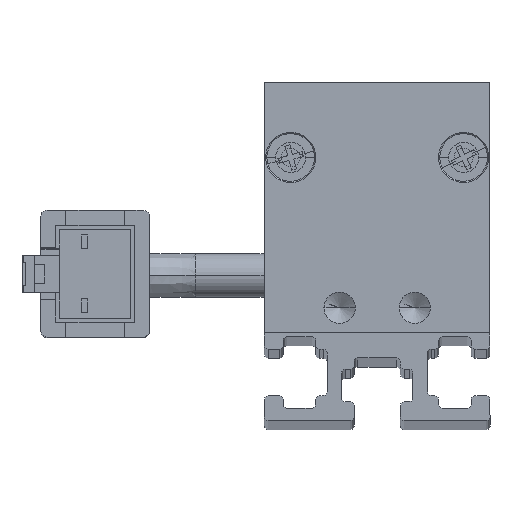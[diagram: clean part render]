
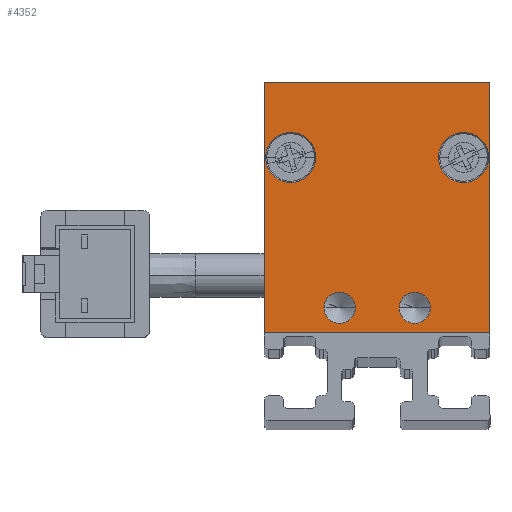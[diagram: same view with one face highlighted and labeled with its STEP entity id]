
A CAD part, top view. The second image highlights one B-rep face of the part: STEP entity #4352.
In plain terms, the highlighted planar face has unit normal (0, 0, 1) as drawn and (0, 0, -1) by its records, which use the part's own axes.
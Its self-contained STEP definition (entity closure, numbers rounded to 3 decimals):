
#163 = EDGE_LOOP ( 'NONE', ( #4491, #4620 ) ) ;
#186 = CARTESIAN_POINT ( 'NONE',  ( -6.9, 14., -2.5 ) ) ;
#302 = ORIENTED_EDGE ( 'NONE', *, *, #7765, .F. ) ;
#450 = EDGE_CURVE ( 'NONE', #8922, #4882, #8882, .T. ) ;
#514 = DIRECTION ( 'NONE',  ( 0., 0., 1. ) ) ;
#521 = EDGE_CURVE ( 'NONE', #8181, #11687, #7374, .T. ) ;
#536 = EDGE_CURVE ( 'NONE', #9345, #9925, #6299, .T. ) ;
#737 = DIRECTION ( 'NONE',  ( 0., -1., 0. ) ) ;
#795 = AXIS2_PLACEMENT_3D ( 'NONE', #7329, #3524, #11199 ) ;
#827 = VERTEX_POINT ( 'NONE', #12157 ) ;
#885 = VERTEX_POINT ( 'NONE', #8368 ) ;
#1005 = ORIENTED_EDGE ( 'NONE', *, *, #521, .F. ) ;
#1153 = DIRECTION ( 'NONE',  ( 0., 0., -1. ) ) ;
#1154 = AXIS2_PLACEMENT_3D ( 'NONE', #4956, #9013, #7934 ) ;
#1447 = CARTESIAN_POINT ( 'NONE',  ( -6.9, 14., -2.5 ) ) ;
#1461 = AXIS2_PLACEMENT_3D ( 'NONE', #4500, #6398, #3549 ) ;
#1592 = ORIENTED_EDGE ( 'NONE', *, *, #5945, .F. ) ;
#1998 = VERTEX_POINT ( 'NONE', #12223 ) ;
#2282 = EDGE_LOOP ( 'NONE', ( #6210, #9033 ) ) ;
#2319 = DIRECTION ( 'NONE',  ( 0., 0., -1. ) ) ;
#2323 = AXIS2_PLACEMENT_3D ( 'NONE', #11893, #10190, #5061 ) ;
#2343 = CIRCLE ( 'NONE', #5386, 1.25 ) ;
#2414 = DIRECTION ( 'NONE',  ( -1., 0., 0. ) ) ;
#2503 = VECTOR ( 'NONE', #4930, 1000. ) ;
#2558 = DIRECTION ( 'NONE',  ( 0., 1., 0. ) ) ;
#2594 = ORIENTED_EDGE ( 'NONE', *, *, #7793, .F. ) ;
#2686 = EDGE_CURVE ( 'NONE', #6422, #1998, #3645, .T. ) ;
#2713 = CARTESIAN_POINT ( 'NONE',  ( -9., 0., -2.5 ) ) ;
#3110 = CARTESIAN_POINT ( 'NONE',  ( 3., 2., -2.5 ) ) ;
#3179 = CARTESIAN_POINT ( 'NONE',  ( -3., 2., -2.5 ) ) ;
#3313 = CARTESIAN_POINT ( 'NONE',  ( -8.9, 14., -2.5 ) ) ;
#3524 = DIRECTION ( 'NONE',  ( 0., 0., -1. ) ) ;
#3549 = DIRECTION ( 'NONE',  ( -1., 0., 0. ) ) ;
#3645 = CIRCLE ( 'NONE', #8104, 2. ) ;
#3804 = CARTESIAN_POINT ( 'NONE',  ( 1.75, 2., -2.5 ) ) ;
#3992 = EDGE_CURVE ( 'NONE', #9088, #885, #7928, .T. ) ;
#4111 = CARTESIAN_POINT ( 'NONE',  ( -9., 20., -2.5 ) ) ;
#4124 = CIRCLE ( 'NONE', #7356, 1.25 ) ;
#4185 = FACE_OUTER_BOUND ( 'NONE', #6298, .T. ) ;
#4352 = ADVANCED_FACE ( 'NONE', ( #8931, #7027, #6078, #8994, #4185 ), #8042, .F. ) ;
#4459 = CARTESIAN_POINT ( 'NONE',  ( -9., 0., -2.5 ) ) ;
#4491 = ORIENTED_EDGE ( 'NONE', *, *, #6964, .F. ) ;
#4500 = CARTESIAN_POINT ( 'NONE',  ( 6.9, 14., -2.5 ) ) ;
#4563 = VECTOR ( 'NONE', #10445, 1000. ) ;
#4620 = ORIENTED_EDGE ( 'NONE', *, *, #3992, .F. ) ;
#4685 = LINE ( 'NONE', #4111, #2503 ) ;
#4740 = CARTESIAN_POINT ( 'NONE',  ( 9., 20., -2.5 ) ) ;
#4741 = ORIENTED_EDGE ( 'NONE', *, *, #536, .F. ) ;
#4882 = VERTEX_POINT ( 'NONE', #9338 ) ;
#4930 = DIRECTION ( 'NONE',  ( -1., 0., 0. ) ) ;
#4956 = CARTESIAN_POINT ( 'NONE',  ( 3., 2., -2.5 ) ) ;
#5020 = DIRECTION ( 'NONE',  ( -1., 0., 0. ) ) ;
#5061 = DIRECTION ( 'NONE',  ( -1., 0., 0. ) ) ;
#5327 = CARTESIAN_POINT ( 'NONE',  ( 9., 0., -2.5 ) ) ;
#5386 = AXIS2_PLACEMENT_3D ( 'NONE', #3110, #1153, #5020 ) ;
#5450 = VECTOR ( 'NONE', #2558, 1000. ) ;
#5612 = CIRCLE ( 'NONE', #5809, 2. ) ;
#5750 = VERTEX_POINT ( 'NONE', #3804 ) ;
#5809 = AXIS2_PLACEMENT_3D ( 'NONE', #1447, #11085, #8285 ) ;
#5945 = EDGE_CURVE ( 'NONE', #4882, #8922, #4124, .T. ) ;
#6051 = ORIENTED_EDGE ( 'NONE', *, *, #450, .F. ) ;
#6078 = FACE_BOUND ( 'NONE', #11226, .T. ) ;
#6210 = ORIENTED_EDGE ( 'NONE', *, *, #2686, .F. ) ;
#6298 = EDGE_LOOP ( 'NONE', ( #1005, #2594, #4741, #302 ) ) ;
#6299 = LINE ( 'NONE', #10179, #5450 ) ;
#6398 = DIRECTION ( 'NONE',  ( 0., 0., -1. ) ) ;
#6422 = VERTEX_POINT ( 'NONE', #3313 ) ;
#6610 = CIRCLE ( 'NONE', #1154, 1.25 ) ;
#6842 = VECTOR ( 'NONE', #737, 1000. ) ;
#6964 = EDGE_CURVE ( 'NONE', #885, #9088, #8589, .T. ) ;
#7027 = FACE_BOUND ( 'NONE', #2282, .T. ) ;
#7043 = DIRECTION ( 'NONE',  ( 0., 0., -1. ) ) ;
#7276 = CARTESIAN_POINT ( 'NONE',  ( 0., 0., -2.5 ) ) ;
#7329 = CARTESIAN_POINT ( 'NONE',  ( -3., 2., -2.5 ) ) ;
#7356 = AXIS2_PLACEMENT_3D ( 'NONE', #3179, #7043, #2414 ) ;
#7374 = LINE ( 'NONE', #8383, #6842 ) ;
#7707 = CARTESIAN_POINT ( 'NONE',  ( -9., 20., -2.5 ) ) ;
#7765 = EDGE_CURVE ( 'NONE', #11687, #9345, #11394, .T. ) ;
#7793 = EDGE_CURVE ( 'NONE', #9925, #8181, #4685, .T. ) ;
#7875 = EDGE_LOOP ( 'NONE', ( #6051, #1592 ) ) ;
#7895 = DIRECTION ( 'NONE',  ( -1., 0., 0. ) ) ;
#7928 = CIRCLE ( 'NONE', #1461, 2. ) ;
#7934 = DIRECTION ( 'NONE',  ( -1., 0., 0. ) ) ;
#8042 = PLANE ( 'NONE',  #8943 ) ;
#8104 = AXIS2_PLACEMENT_3D ( 'NONE', #186, #2319, #7895 ) ;
#8181 = VERTEX_POINT ( 'NONE', #7707 ) ;
#8285 = DIRECTION ( 'NONE',  ( -1., 0., 0. ) ) ;
#8368 = CARTESIAN_POINT ( 'NONE',  ( 4.9, 14., -2.5 ) ) ;
#8383 = CARTESIAN_POINT ( 'NONE',  ( -9., 20., -2.5 ) ) ;
#8536 = ORIENTED_EDGE ( 'NONE', *, *, #10753, .F. ) ;
#8589 = CIRCLE ( 'NONE', #2323, 2. ) ;
#8730 = ORIENTED_EDGE ( 'NONE', *, *, #11931, .F. ) ;
#8882 = CIRCLE ( 'NONE', #795, 1.25 ) ;
#8922 = VERTEX_POINT ( 'NONE', #12160 ) ;
#8931 = FACE_BOUND ( 'NONE', #163, .T. ) ;
#8943 = AXIS2_PLACEMENT_3D ( 'NONE', #7276, #514, #10314 ) ;
#8994 = FACE_BOUND ( 'NONE', #7875, .T. ) ;
#9013 = DIRECTION ( 'NONE',  ( 0., 0., -1. ) ) ;
#9033 = ORIENTED_EDGE ( 'NONE', *, *, #11220, .F. ) ;
#9071 = CARTESIAN_POINT ( 'NONE',  ( 8.9, 14., -2.5 ) ) ;
#9088 = VERTEX_POINT ( 'NONE', #9071 ) ;
#9338 = CARTESIAN_POINT ( 'NONE',  ( -1.75, 2., -2.5 ) ) ;
#9345 = VERTEX_POINT ( 'NONE', #5327 ) ;
#9925 = VERTEX_POINT ( 'NONE', #4740 ) ;
#10179 = CARTESIAN_POINT ( 'NONE',  ( 9., 20., -2.5 ) ) ;
#10190 = DIRECTION ( 'NONE',  ( 0., 0., -1. ) ) ;
#10314 = DIRECTION ( 'NONE',  ( 1., 0., 0. ) ) ;
#10445 = DIRECTION ( 'NONE',  ( 1., 0., 0. ) ) ;
#10753 = EDGE_CURVE ( 'NONE', #827, #5750, #6610, .T. ) ;
#11085 = DIRECTION ( 'NONE',  ( 0., 0., -1. ) ) ;
#11199 = DIRECTION ( 'NONE',  ( -1., 0., 0. ) ) ;
#11220 = EDGE_CURVE ( 'NONE', #1998, #6422, #5612, .T. ) ;
#11226 = EDGE_LOOP ( 'NONE', ( #8730, #8536 ) ) ;
#11394 = LINE ( 'NONE', #2713, #4563 ) ;
#11687 = VERTEX_POINT ( 'NONE', #4459 ) ;
#11893 = CARTESIAN_POINT ( 'NONE',  ( 6.9, 14., -2.5 ) ) ;
#11931 = EDGE_CURVE ( 'NONE', #5750, #827, #2343, .T. ) ;
#12157 = CARTESIAN_POINT ( 'NONE',  ( 4.25, 2., -2.5 ) ) ;
#12160 = CARTESIAN_POINT ( 'NONE',  ( -4.25, 2., -2.5 ) ) ;
#12223 = CARTESIAN_POINT ( 'NONE',  ( -4.9, 14., -2.5 ) ) ;
